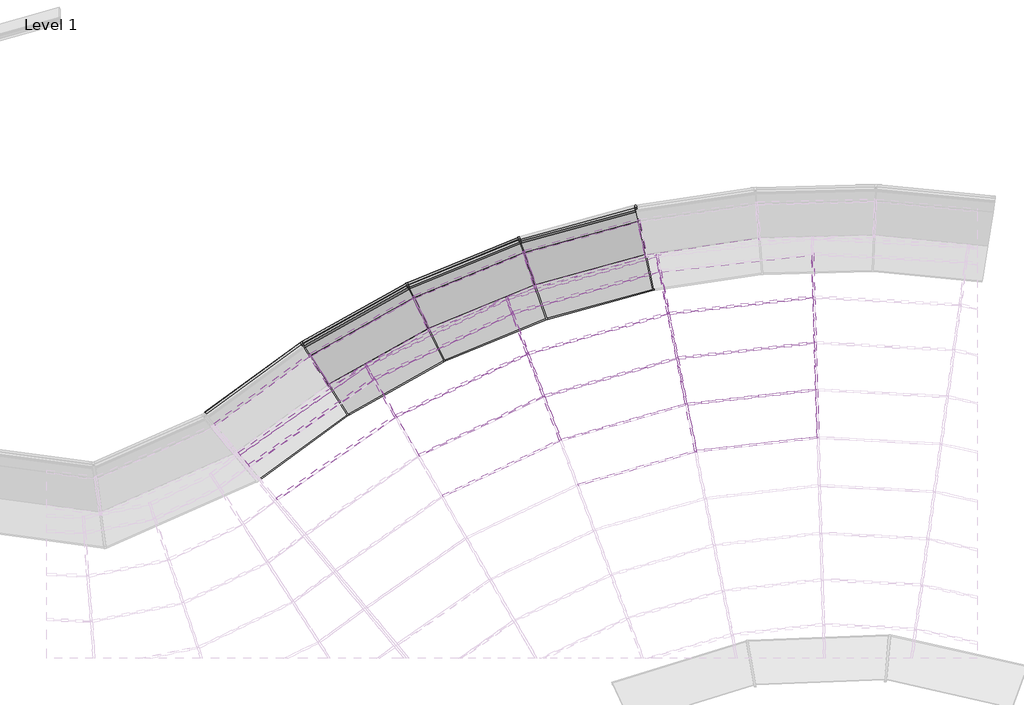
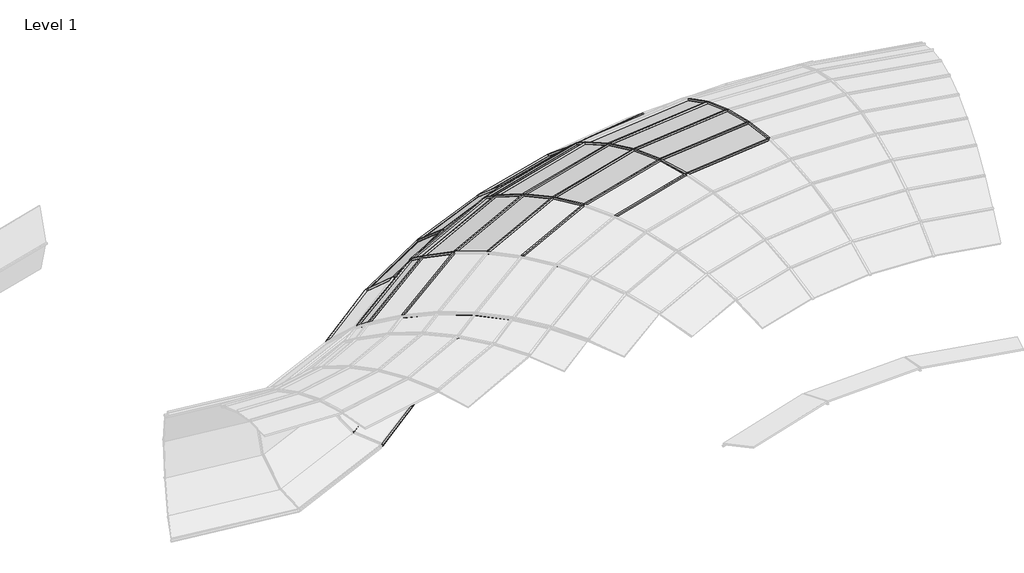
# One storey, part 9 of 23: 75 members, 27 plates.
"""IFC4 building model written with IfcOpenShell, lengths in millimetres."""

from ifc_helpers import new_model, si_unit, origin, place, context, project, spatial, transform, mapped, element, save
from components import member_c628317b, member_6de91377, member_1c681369, member_2317d74f, member_20199af6, member_3d776555, member_f0155a20, member_c9893ebc, member_775132e8, member_b171f0c8, member_cca2ed68, member_07455e61, member_515abc7c, member_13d284af, member_42775d8c, member_6834bcaf, member_93a8f3f7, member_a3fa0b53, member_9aefb50d, member_b335b832, member_0cd36c09, member_d0a40a1c, member_ff9adfd2, member_8c9da58c, member_391bee44, member_01ebdf2a, member_d6b8231b, system_panel_glazed_71638be0, system_panel_glazed_05378adf, system_panel_glazed_d39a2736, system_panel_glazed_45b67513, system_panel_glazed_273e2fa2, system_panel_glazed_45b4e97c, system_panel_glazed_9a1bcf3f, system_panel_glazed_a2a57e74, system_panel_glazed_56180ac8, system_panel_glazed_7dd4ad5a, system_panel_glazed_672f498d

model = new_model("IFC4")

# Units and contexts
model_context = context("Model", 3, world=origin())
ifc_project = project(units=[si_unit("LENGTHUNIT", "METRE", prefix="MILLI")], contexts=[model_context])

# Site, building, storey
site = spatial("IfcSite", under=ifc_project)
building = spatial("IfcBuilding", under=site)
storey = spatial("IfcBuildingStorey", under=building, Name="Level 1", Elevation=0.0)

# Members
placement = place(None, origin())
member_shape = member_c628317b(model_context)
element("IfcMember", 1, ObjectType="Rectangular Mullion : 1\" Square", at=placement, inside=storey, context=model_context, shape_type="MappedRepresentation", body=[
    mapped(member_shape, transform((-1928.4449271, -3972.3514659, 2864.5209769), x_axis=(-0.274468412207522, 0.9609290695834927, -0.03581080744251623), y_axis=(-0.009835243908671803, 0.03443373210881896, 0.999358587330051), z_axis=(0.9615458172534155, 0.2746445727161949, 0.0))),
])
element("IfcMember", 2, ObjectType="Rectangular Mullion : 1\" Square", at=placement, inside=storey, context=model_context, shape_type="MappedRepresentation", body=[
    mapped(member_shape, transform((-384.0867255, -3795.8696083, 2864.5209769), x_axis=(-0.11212460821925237, 0.993048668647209, -0.03581080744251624), y_axis=(-0.004017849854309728, 0.035584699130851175, 0.9993585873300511), z_axis=(0.9936860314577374, 0.1121965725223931, 0.0))),
])
member_2_shape = member_6de91377(model_context)
element("IfcMember", 3, ObjectType="Rectangular Mullion : 1\" Square", at=placement, inside=storey, context=model_context, shape_type="MappedRepresentation", body=[
    mapped(member_2_shape, transform((-3636.8972407, -3833.6088572, 2806.2019711), x_axis=(-0.42442622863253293, 0.8922429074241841, -0.154158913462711), y_axis=(-0.06622068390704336, 0.13921132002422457, 0.9880460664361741), z_axis=(0.9030377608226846, 0.42956117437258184, 0.0))),
])
element("IfcMember", 4, ObjectType="Rectangular Mullion : 1\" Square", at=placement, inside=storey, context=model_context, shape_type="MappedRepresentation", body=[
    mapped(member_2_shape, transform((-2046.2176927, -3377.0862904, 2806.2019711), x_axis=(-0.2713614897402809, 0.9500515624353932, -0.1541589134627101), y_axis=(-0.042338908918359, 0.14823085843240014, 0.9880460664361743), z_axis=(0.9615458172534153, 0.27464457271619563, 0.0))),
])
element("IfcMember", 5, ObjectType="Rectangular Mullion : 1\" Square", at=placement, inside=storey, context=model_context, shape_type="MappedRepresentation", body=[
    mapped(member_2_shape, transform((-402.0090703, -3189.3303737, 2806.2019711), x_axis=(-0.11085538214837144, 0.9818075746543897, -0.1541589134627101), y_axis=(-0.01729610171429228, 0.1531855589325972, 0.9880460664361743), z_axis=(0.9936860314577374, 0.11219657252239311, 0.0))),
])
member_3_shape = member_1c681369(model_context)
element("IfcMember", 6, ObjectType="Rectangular Mullion : 1\" Square", at=placement, inside=storey, context=model_context, shape_type="MappedRepresentation", body=[
    mapped(member_3_shape, transform((-3847.3125324, -3276.4749527, 2676.0506073), x_axis=(-0.4135643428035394, 0.8694086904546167, -0.2703572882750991), y_axis=(-0.11613499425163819, 0.24414284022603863, 0.9627600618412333), z_axis=(0.9030377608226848, 0.4295611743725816, 0.0))),
])
element("IfcMember", 7, ObjectType="Rectangular Mullion : 1\" Square", at=placement, inside=storey, context=model_context, shape_type="MappedRepresentation", body=[
    mapped(member_3_shape, transform((-2161.8050658, -2792.866861, 2676.0506073), x_axis=(-0.2644168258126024, 0.9257379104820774, -0.2703572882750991), y_axis=(-0.07425216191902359, 0.25996091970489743, 0.9627600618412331), z_axis=(0.9615458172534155, 0.27464457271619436, 0.0))),
])
element("IfcMember", 8, ObjectType="Rectangular Mullion : 1\" Square", at=placement, inside=storey, context=model_context, shape_type="MappedRepresentation", body=[
    mapped(member_3_shape, transform((-419.5988478, -2594.0460868, 2676.0506073), x_axis=(-0.10801837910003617, 0.9566812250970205, -0.27035728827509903), y_axis=(-0.030333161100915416, 0.2686502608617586, 0.9627600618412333), z_axis=(0.993686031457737, 0.11219657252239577, 0.0))),
])
member_4_shape = member_2317d74f(model_context)
element("IfcMember", 9, ObjectType="Rectangular Mullion : 1\" Square", at=placement, inside=storey, context=model_context, shape_type="MappedRepresentation", body=[
    mapped(member_4_shape, transform((-5719.4513163, -3533.8942053, 2475.91846), x_axis=(-0.5290813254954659, 0.7573326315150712, -0.3827796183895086), y_axis=(-0.21921719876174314, 0.31378982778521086, 0.9238396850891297), z_axis=(0.8197662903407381, 0.5726982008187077, 0.0))),
])
member_5_shape = member_20199af6(model_context)
element("IfcMember", 10, ObjectType="Rectangular Mullion : 1\" Square", at=placement, inside=storey, context=model_context, shape_type="MappedRepresentation", body=[
    mapped(member_5_shape, transform((-4050.7561003, -2737.8006557, 2475.91846), x_axis=(-0.3968456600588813, 0.834262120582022, -0.3827796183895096), y_axis=(-0.16442726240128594, 0.34566444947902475, 0.9238396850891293), z_axis=(0.9030377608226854, 0.4295611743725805, 0.0))),
])
element("IfcMember", 11, ObjectType="Rectangular Mullion : 1\" Square", at=placement, inside=storey, context=model_context, shape_type="MappedRepresentation", body=[
    mapped(member_5_shape, transform((-2273.5626638, -2228.0044681, 2475.91846), x_axis=(-0.253727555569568, 0.8883141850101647, -0.38277961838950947), y_axis=(-0.10512834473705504, 0.3680601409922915, 0.9238396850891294), z_axis=(0.9615458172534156, 0.274644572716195, 0.0))),
])
element("IfcMember", 12, ObjectType="Rectangular Mullion : 1\" Square", at=placement, inside=storey, context=model_context, shape_type="MappedRepresentation", body=[
    mapped(member_5_shape, transform((-436.6058204, -2018.4854501, 2475.91846), x_axis=(-0.10365164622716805, 0.9180065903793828, -0.3827796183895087), y_axis=(-0.04294656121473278, 0.38036275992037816, 0.9238396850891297), z_axis=(0.9936860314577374, 0.1121965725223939, 0.0))),
])
member_6_shape = member_3d776555(model_context)
element("IfcMember", 13, ObjectType="Rectangular Mullion : 1\" Square", at=placement, inside=storey, context=model_context, shape_type="MappedRepresentation", body=[
    mapped(member_6_shape, transform((-5994.9602237, -3060.3163335, 2208.6526723), x_axis=(-0.49928391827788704, 0.7146803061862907, -0.4898444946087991), y_axis=(-0.28053306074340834, 0.401558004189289, 0.871809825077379), z_axis=(0.819766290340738, 0.5726982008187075, 0.0))),
])
member_7_shape = member_f0155a20(model_context)
element("IfcMember", 14, ObjectType="Rectangular Mullion : 1\" Square", at=placement, inside=storey, context=model_context, shape_type="MappedRepresentation", body=[
    mapped(member_7_shape, transform((-4244.3336919, -2225.249317, 2208.6526723), x_axis=(-0.3744956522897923, 0.7872771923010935, -0.4898444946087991), y_axis=(-0.21041817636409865, 0.44234807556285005, 0.871809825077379), z_axis=(0.9030377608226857, 0.42956117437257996, 0.0))),
])
element("IfcMember", 15, ObjectType="Rectangular Mullion : 1\" Square", at=placement, inside=storey, context=model_context, shape_type="MappedRepresentation", body=[
    mapped(member_7_shape, transform((-2379.9005878, -1690.5350228, 2208.6526723), x_axis=(-0.23943783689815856, 0.8382850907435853, -0.4898444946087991), y_axis=(-0.13453313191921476, 0.4710079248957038, 0.871809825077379), z_axis=(0.9615458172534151, 0.2746445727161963, 0.0))),
])
member_8_shape = member_c9893ebc(model_context)
element("IfcMember", 16, ObjectType="Rectangular Mullion : 1\" Square", at=placement, inside=storey, context=model_context, shape_type="MappedRepresentation", body=[
    mapped(member_8_shape, transform((-6098.873932, -2881.6969442, 2085.6089632), x_axis=(-0.4916301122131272, 0.7037245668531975, -0.512905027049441), y_axis=(-0.29373978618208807, 0.42046225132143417, 0.8584453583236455), z_axis=(0.8197662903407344, 0.5726982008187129, 0.0))),
])
member_9_shape = member_775132e8(model_context)
element("IfcMember", 17, ObjectType="Rectangular Mullion : 1\" Square", at=placement, inside=storey, context=model_context, shape_type="MappedRepresentation", body=[
    mapped(member_9_shape, transform((-4317.3453617, -2031.9303033, 2085.6089632), x_axis=(-0.36875479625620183, 0.7752085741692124, -0.5129050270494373), y_axis=(-0.22032408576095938, 0.4631726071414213, 0.8584453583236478), z_axis=(0.9030377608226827, 0.42956117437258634, 0.0))),
])
element("IfcMember", 18, ObjectType="Rectangular Mullion : 1\" Square", at=placement, inside=storey, context=model_context, shape_type="MappedRepresentation", body=[
    mapped(member_9_shape, transform((-2420.0080679, -1487.8176455, 2085.6089632), x_axis=(-0.2357673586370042, 0.8254345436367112, -0.5129050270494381), y_axis=(-0.1408665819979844, 0.4931816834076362, 0.8584453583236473), z_axis=(0.9615458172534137, 0.27464457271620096, 0.0))),
])
member_10_shape = member_b171f0c8(model_context)
element("IfcMember", 19, ObjectType="Rectangular Mullion : 1\" Square", at=placement, inside=storey, context=model_context, shape_type="MappedRepresentation", body=[
    mapped(member_10_shape, transform((-5572.5621818, -1858.7917179, 1116.1918244), x_axis=(-0.012962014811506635, 0.023146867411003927, -0.9996480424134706), y_axis=(-0.488424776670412, 0.8722026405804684, 0.02652906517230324), z_axis=(0.8725097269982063, 0.48859674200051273, 0.0))),
])
element("IfcMember", 20, ObjectType="Rectangular Mullion : 1\" Square", at=placement, inside=storey, context=model_context, shape_type="MappedRepresentation", body=[
    mapped(member_10_shape, transform((-4160.6091325, -1278.3717529, 1116.1918244), x_axis=(-0.01006174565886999, 0.024546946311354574, -0.9996480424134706), y_axis=(-0.3791390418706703, 0.9249593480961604, 0.02652906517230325), z_axis=(0.9252850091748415, 0.3792725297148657, 0.0))),
])
member_11_shape = member_cca2ed68(model_context)
element("IfcMember", 21, ObjectType="Rectangular Mullion : 1\" Square", at=placement, inside=storey, context=model_context, shape_type="MappedRepresentation", body=[
    mapped(member_11_shape, transform((-6819.8034783, -2736.6901017, 526.7119632), x_axis=(0.3051754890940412, -0.4168449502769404, -0.8562173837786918), y_axis=(-0.5057851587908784, 0.6908614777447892, -0.5166157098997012), z_axis=(0.8068762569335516, 0.5907204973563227, 0.0))),
])
member_12_shape = member_07455e61(model_context)
element("IfcMember", 22, ObjectType="Rectangular Mullion : 1\" Square", at=placement, inside=storey, context=model_context, shape_type="MappedRepresentation", body=[
    mapped(member_12_shape, transform((-5505.0370626, -1998.6702778, 526.7119632), x_axis=(0.25241675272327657, -0.4507522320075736, -0.8562173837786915), y_axis=(-0.4183450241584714, 0.7470579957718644, -0.5166157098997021), z_axis=(0.8725097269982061, 0.48859674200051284, 0.0))),
])
element("IfcMember", 23, ObjectType="Rectangular Mullion : 1\" Square", at=placement, inside=storey, context=model_context, shape_type="MappedRepresentation", body=[
    mapped(member_12_shape, transform((-4110.5309752, -1425.4017886, 526.7119632), x_axis=(0.1959381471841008, -0.4780167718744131, -0.8562173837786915), y_axis=(-0.3247397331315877, 0.7922451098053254, -0.516615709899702), z_axis=(0.9252850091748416, 0.37927252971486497, 0.0))),
])
element("IfcMember", 24, ObjectType="Rectangular Mullion : 1\" Square", at=placement, inside=storey, context=model_context, shape_type="MappedRepresentation", body=[
    mapped(member_12_shape, transform((-2656.8360716, -1025.3328998, 526.7119632), x_axis=(0.13657199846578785, -0.49823677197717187, -0.8562173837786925), y_axis=(-0.22634874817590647, 0.8257568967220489, -0.5166157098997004), z_axis=(0.9644243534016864, 0.2643589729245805, 0.0))),
])
member_13_shape = member_515abc7c(model_context)
element("IfcMember", 25, ObjectType="Rectangular Mullion : 1\" Square", at=placement, inside=storey, context=model_context, shape_type="MappedRepresentation", body=[
    mapped(member_13_shape, transform((-4100.5457525, -1454.7185153, 1696.6281859), x_axis=(-0.212867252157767, 0.5193175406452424, -0.827645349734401), y_axis=(-0.31390314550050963, 0.7658078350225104, 0.5612514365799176), z_axis=(0.9252850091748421, 0.37927252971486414, 0.0))),
])
element("IfcMember", 26, ObjectType="Rectangular Mullion : 1\" Square", at=placement, inside=storey, context=model_context, shape_type="MappedRepresentation", body=[
    mapped(member_13_shape, transform((-2650.4767994, -1055.643538, 1696.6281859), x_axis=(-0.14837185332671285, 0.5412845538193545, -0.8276453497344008), y_axis=(-0.2187954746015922, 0.798201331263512, 0.5612514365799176), z_axis=(0.9644243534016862, 0.26435897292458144, 0.0))),
])
element("IfcMember", 27, ObjectType="Rectangular Mullion : 1\" Square", at=placement, inside=storey, context=model_context, shape_type="MappedRepresentation", body=[
    mapped(member_13_shape, transform((-5491.5730418, -2026.5610519, 1696.6281859), x_axis=(-0.2742256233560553, 0.48969733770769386, -0.8276453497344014), y_axis=(-0.40438482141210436, 0.722128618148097, 0.5612514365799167), z_axis=(0.8725097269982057, 0.48859674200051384, 0.0))),
])
member_14_shape = member_13d284af(model_context)
element("IfcMember", 28, ObjectType="Rectangular Mullion : 1\" Square", at=placement, inside=storey, context=model_context, shape_type="MappedRepresentation", body=[
    mapped(member_14_shape, transform((-6903.7804408, -2606.0244099, 1116.1918244), x_axis=(-0.01567126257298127, 0.021405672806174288, -0.9996480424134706), y_axis=(-0.5905125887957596, 0.8065922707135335, 0.026529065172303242), z_axis=(0.8068762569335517, 0.5907204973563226, 0.0))),
])
member_15_shape = member_42775d8c(model_context)
element("IfcMember", 29, ObjectType="Rectangular Mullion : 1\" Square", at=placement, inside=storey, context=model_context, shape_type="MappedRepresentation", body=[
    mapped(member_15_shape, transform((-6577.5193926, -3113.6770365, 113.4427618), x_axis=(0.5294456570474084, -0.7231797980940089, -0.44350679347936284), y_axis=(-0.2619885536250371, 0.3578551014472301, -0.8962710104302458), z_axis=(0.8068762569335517, 0.5907204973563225, 0.0))),
])
member_16_shape = member_6834bcaf(model_context)
element("IfcMember", 30, ObjectType="Rectangular Mullion : 1\" Square", at=placement, inside=storey, context=model_context, shape_type="MappedRepresentation", body=[
    mapped(member_16_shape, transform((-5310.2186112, -2402.2374944, 113.4427618), x_axis=(0.4379150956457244, -0.7820051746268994, -0.44350679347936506), y_axis=(-0.21669597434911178, 0.38696399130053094, -0.8962710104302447), z_axis=(0.8725097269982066, 0.48859674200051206, 0.0))),
])
element("IfcMember", 31, ObjectType="Rectangular Mullion : 1\" Square", at=placement, inside=storey, context=model_context, shape_type="MappedRepresentation", body=[
    mapped(member_16_shape, transform((-3966.0492005, -1849.6019113, 113.4427618), x_axis=(0.33993097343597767, -0.8293061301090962, -0.4435067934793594), y_axis=(-0.1682099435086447, 0.4103701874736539, -0.8962710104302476), z_axis=(0.9252850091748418, 0.3792725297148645, 0.0))),
])
element("IfcMember", 32, ObjectType="Rectangular Mullion : 1\" Square", at=placement, inside=storey, context=model_context, shape_type="MappedRepresentation", body=[
    mapped(member_16_shape, transform((-2564.8202035, -1463.9144854, 113.4427618), x_axis=(0.23693728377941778, -0.8643855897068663, -0.443506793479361), y_axis=(-0.1172450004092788, 0.4277287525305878, -0.8962710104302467), z_axis=(0.9644243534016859, 0.2643589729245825, 0.0))),
])
member_17_shape = member_93a8f3f7(model_context)
element("IfcMember", 33, ObjectType="Rectangular Mullion : 1\" Square", at=placement, inside=storey, context=model_context, shape_type="MappedRepresentation", body=[
    mapped(member_17_shape, transform((-6316.0692502, -3520.4857935, 0.0), x_axis=(0.5750522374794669, -0.7854746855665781, -0.22878907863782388), y_axis=(-0.13515039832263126, 0.18460447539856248, -0.9734760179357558), z_axis=(0.8068762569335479, 0.5907204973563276, 0.0))),
])
member_18_shape = member_a3fa0b53(model_context)
element("IfcMember", 34, ObjectType="Rectangular Mullion : 1\" Square", at=placement, inside=storey, context=model_context, shape_type="MappedRepresentation", body=[
    mapped(member_18_shape, transform((-5099.9889064, -2837.7291854, 0.0), x_axis=(0.47563721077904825, -0.8493672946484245, -0.22878907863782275), y_axis=(-0.11178559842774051, 0.19962069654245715, -0.973476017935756), z_axis=(0.8725097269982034, 0.4885967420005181, 0.0))),
])
element("IfcMember", 35, ObjectType="Rectangular Mullion : 1\" Square", at=placement, inside=storey, context=model_context, shape_type="MappedRepresentation", body=[
    mapped(member_18_shape, transform((-3810.1380913, -2307.3586892, 0.0), x_axis=(0.3692127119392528, -0.9007427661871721, -0.22878907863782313), y_axis=(-0.08677341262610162, 0.21169510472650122, -0.9734760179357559), z_axis=(0.9252850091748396, 0.3792725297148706, 0.0))),
])
element("IfcMember", 36, ObjectType="Rectangular Mullion : 1\" Square", at=placement, inside=storey, context=model_context, shape_type="MappedRepresentation", body=[
    mapped(member_18_shape, transform((-2465.5253541, -1937.1903823, 0.0), x_axis=(0.2573471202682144, -0.9388439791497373, -0.22878907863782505), y_axis=(-0.060482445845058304, 0.22064975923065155, -0.9734760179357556), z_axis=(0.9644243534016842, 0.26435897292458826, 0.0))),
])
member_19_shape = member_9aefb50d(model_context)
element("IfcMember", 37, ObjectType="Rectangular Mullion : 1\" Square", at=placement, inside=storey, context=model_context, shape_type="MappedRepresentation", body=[
    mapped(member_19_shape, transform((-6803.0590789, -2762.7438964, 1696.6281859), x_axis=(-0.33154272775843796, 0.45286045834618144, -0.827645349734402), y_axis=(-0.4889070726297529, 0.667807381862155, 0.5612514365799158), z_axis=(0.8068762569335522, 0.5907204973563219, 0.0))),
])
member_20_shape = member_b335b832(model_context)
element("IfcMember", 38, ObjectType="Rectangular Mullion : 1\" Square", at=placement, inside=storey, context=model_context, shape_type="MappedRepresentation", body=[
    mapped(member_20_shape, transform((-6527.9646064, -3143.889445, 2085.6089632), x_axis=(0.37591719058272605, -0.6712926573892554, 0.6387898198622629), y_axis=(-0.3121106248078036, 0.5573503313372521, 0.7693812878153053), z_axis=(-0.8725097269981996, -0.48859674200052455, 0.0))),
])
element("IfcMember", 39, ObjectType="Rectangular Mullion : 1\" Square", at=placement, inside=storey, context=model_context, shape_type="MappedRepresentation", body=[
    mapped(member_20_shape, transform((-5264.689876, -2438.2319484, 2085.6089632), x_axis=(0.291805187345, -0.7118969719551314, 0.6387898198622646), y_axis=(-0.2422754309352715, 0.5910626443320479, 0.7693812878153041), z_axis=(-0.9252850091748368, -0.3792725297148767, 0.0))),
])
element("IfcMember", 40, ObjectType="Rectangular Mullion : 1\" Square", at=placement, inside=storey, context=model_context, shape_type="MappedRepresentation", body=[
    mapped(member_20_shape, transform((-3925.2174738, -1890.8479601, 2085.6089632), x_axis=(0.20339284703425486, -0.7420100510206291, 0.638789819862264), y_axis=(-0.16886982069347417, 0.6160644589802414, 0.7693812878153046), z_axis=(-0.9644243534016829, -0.2643589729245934, 0.0))),
])
element("IfcMember", 41, ObjectType="Rectangular Mullion : 1\" Square", at=placement, inside=storey, context=model_context, shape_type="MappedRepresentation", body=[
    mapped(member_20_shape, transform((-2529.287223, -1509.8042855, 2085.6089632), x_axis=(0.11198310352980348, -0.7611881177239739, 0.6387898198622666), y_axis=(-0.09297557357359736, 0.6319873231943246, 0.7693812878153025), z_axis=(-0.9893509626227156, -0.14554955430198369, 0.0))),
])
member_21_shape = member_0cd36c09(model_context)
element("IfcMember", 42, ObjectType="Rectangular Mullion : 1\" Square", at=placement, inside=storey, context=model_context, shape_type="MappedRepresentation", body=[
    mapped(member_21_shape, transform((-3625.4286612, -3828.1534303, 2806.2019711), x_axis=(0.9355040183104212, 0.35331605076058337, 0.0), y_axis=(-0.07543399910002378, 0.19973281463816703, 0.9769424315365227), z_axis=(0.34516944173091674, -0.913933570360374, 0.2135028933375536))),
])
element("IfcMember", 43, ObjectType="Rectangular Mullion : 1\" Square", at=placement, inside=storey, context=model_context, shape_type="MappedRepresentation", body=[
    mapped(member_21_shape, transform((-3835.8439528, -3271.0195258, 2676.0506073), x_axis=(0.9355040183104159, 0.35331605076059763, 0.0), y_axis=(-0.11599393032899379, 0.30712668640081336, 0.944573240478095), z_axis=(0.3337328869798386, -0.883652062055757, 0.3283007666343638))),
])
element("IfcMember", 44, ObjectType="Rectangular Mullion : 1\" Square", at=placement, inside=storey, context=model_context, shape_type="MappedRepresentation", body=[
    mapped(member_21_shape, transform((-1916.2332952, -3968.8634799, 2864.5209769), x_axis=(0.9809843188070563, 0.19408700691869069, 0.0), y_axis=(-0.01856784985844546, 0.09384847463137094, 0.9954133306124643), z_axis=(0.19319679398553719, -0.9764848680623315, 0.09566766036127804))),
])
element("IfcMember", 45, ObjectType="Rectangular Mullion : 1\" Square", at=placement, inside=storey, context=model_context, shape_type="MappedRepresentation", body=[
    mapped(member_21_shape, transform((-2034.0060608, -3373.5983043, 2806.2019711), x_axis=(0.9809843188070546, 0.19408700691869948, 0.0), y_axis=(-0.041438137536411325, 0.2094429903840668, 0.9769424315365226), z_axis=(0.1896118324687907, -0.9583652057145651, 0.21350289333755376))),
])
element("IfcMember", 46, ObjectType="Rectangular Mullion : 1\" Square", at=placement, inside=storey, context=model_context, shape_type="MappedRepresentation", body=[
    mapped(member_21_shape, transform((-2149.5934339, -2789.3788749, 2676.0506073), x_axis=(0.9809843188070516, 0.19408700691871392, 0.0), y_axis=(-0.06371891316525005, 0.3220579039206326, 0.9445732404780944), z_axis=(0.18332939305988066, -0.9266115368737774, 0.32830076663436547))),
])
element("IfcMember", 47, ObjectType="Rectangular Mullion : 1\" Square", at=placement, inside=storey, context=model_context, shape_type="MappedRepresentation", body=[
    mapped(member_21_shape, transform((-371.466913, -3794.4447118, 2864.5209769), x_axis=(0.9995637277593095, 0.029535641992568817, 0.0), y_axis=(-0.002825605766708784, 0.09562592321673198, 0.9954133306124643), z_axis=(0.029400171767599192, -0.9949790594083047, 0.09566766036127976))),
])
element("IfcMember", 48, ObjectType="Rectangular Mullion : 1\" Square", at=placement, inside=storey, context=model_context, shape_type="MappedRepresentation", body=[
    mapped(member_21_shape, transform((-389.3892577, -3187.9054772, 2806.2019711), x_axis=(0.9995637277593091, 0.02953564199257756, 0.0), y_axis=(-0.0063059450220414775, 0.213409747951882, 0.9769424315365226), z_axis=(0.02885462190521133, -0.9765162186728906, 0.2135028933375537))),
])
element("IfcMember", 49, ObjectType="Rectangular Mullion : 1\" Square", at=placement, inside=storey, context=model_context, shape_type="MappedRepresentation", body=[
    mapped(member_21_shape, transform((-406.9790352, -2592.6211903, 2676.0506073), x_axis=(0.9995637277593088, 0.02953564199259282, 0.0), y_axis=(-0.0096965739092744, 0.3281575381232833, 0.9445732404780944), z_axis=(0.02789857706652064, -0.9441611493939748, 0.3283007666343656))),
])
member_22_shape = member_d0a40a1c(model_context)
element("IfcMember", 50, ObjectType="Rectangular Mullion : 1\" Square", at=placement, inside=storey, context=model_context, shape_type="MappedRepresentation", body=[
    mapped(member_22_shape, transform((-5709.0402844, -3526.6209381, 2475.91846), x_axis=(0.8643700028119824, 0.5028563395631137, 0.0), y_axis=(-0.22046636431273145, 0.378964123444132, 0.898766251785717), z_axis=(0.4519503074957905, -0.7768665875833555, 0.4384281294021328))),
])
element("IfcMember", 51, ObjectType="Rectangular Mullion : 1\" Square", at=placement, inside=storey, context=model_context, shape_type="MappedRepresentation", body=[
    mapped(member_22_shape, transform((-4039.2875207, -2732.3452287, 2475.91846), x_axis=(0.9355040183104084, 0.35331605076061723, 0.0), y_axis=(-0.15490369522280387, 0.4101512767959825, 0.8987662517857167), z_axis=(0.3175485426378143, -0.8407994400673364, 0.43842812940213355))),
])
element("IfcMember", 52, ObjectType="Rectangular Mullion : 1\" Square", at=placement, inside=storey, context=model_context, shape_type="MappedRepresentation", body=[
    mapped(member_22_shape, transform((-2261.3510319, -2224.516482, 2475.91846), x_axis=(0.9809843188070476, 0.19408700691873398, 0.0), y_axis=(-0.08509320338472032, 0.4300911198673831, 0.8987662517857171), z_axis=(0.17443885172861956, -0.881675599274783, 0.43842812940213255))),
])
element("IfcMember", 53, ObjectType="Rectangular Mullion : 1\" Square", at=placement, inside=storey, context=model_context, shape_type="MappedRepresentation", body=[
    mapped(member_22_shape, transform((-423.9860078, -2017.0605536, 2475.91846), x_axis=(0.9995637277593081, 0.029535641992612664, 0.0), y_axis=(-0.012949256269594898, 0.4382368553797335, 0.898766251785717), z_axis=(0.026545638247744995, -0.8983741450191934, 0.43842812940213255))),
])
member_23_shape = member_ff9adfd2(model_context)
element("IfcMember", 54, ObjectType="Rectangular Mullion : 1\" Square", at=placement, inside=storey, context=model_context, shape_type="MappedRepresentation", body=[
    mapped(member_23_shape, transform((-5984.5491919, -3053.0430663, 2208.6526723), x_axis=(0.8643700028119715, 0.5028563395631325, 0.0), y_axis=(-0.25726402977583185, 0.44221637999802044, 0.8592205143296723), z_axis=(0.43206448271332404, -0.7426844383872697, 0.5116054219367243))),
])
element("IfcMember", 55, ObjectType="Rectangular Mullion : 1\" Square", at=placement, inside=storey, context=model_context, shape_type="MappedRepresentation", body=[
    mapped(member_23_shape, transform((-4232.8651123, -2219.7938901, 2208.6526723), x_axis=(0.9355040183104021, 0.353316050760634, 0.0), y_axis=(-0.18075840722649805, 0.4786089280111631, 0.8592205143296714), z_axis=(0.30357639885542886, -0.8038042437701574, 0.5116054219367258))),
])
element("IfcMember", 56, ObjectType="Rectangular Mullion : 1\" Square", at=placement, inside=storey, context=model_context, shape_type="MappedRepresentation", body=[
    mapped(member_23_shape, transform((-2367.6889559, -1687.0470367, 2208.6526723), x_axis=(0.9809843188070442, 0.19408700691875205, 0.0), y_axis=(-0.09929596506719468, 0.5018768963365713, 0.8592205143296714), z_axis=(0.1667635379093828, -0.8428818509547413, 0.5116054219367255))),
])
member_24_shape = member_8c9da58c(model_context)
element("IfcMember", 57, ObjectType="Rectangular Mullion : 1\" Square", at=placement, inside=storey, context=model_context, shape_type="MappedRepresentation", body=[
    mapped(member_24_shape, transform((-4148.8580129, -1273.5549918, 1116.1918244), x_axis=(0.9466000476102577, 0.3224102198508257, 0.0), y_axis=(-0.31176891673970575, 0.9153570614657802, -0.2547971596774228), z_axis=(-0.08214920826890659, 0.24119100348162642, 0.9669945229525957))),
])
element("IfcMember", 58, ObjectType="Rectangular Mullion : 1\" Square", at=placement, inside=storey, context=model_context, shape_type="MappedRepresentation", body=[
    mapped(member_24_shape, transform((-2638.2286101, -1052.286179, 1696.6281859), x_axis=(0.9786921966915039, 0.2053328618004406, 0.0), y_axis=(-0.1955096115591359, 0.9318709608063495, 0.30560187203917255), z_axis=(0.06275010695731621, -0.2990901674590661, 0.9521593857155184))),
])
element("IfcMember", 59, ObjectType="Rectangular Mullion : 1\" Square", at=placement, inside=storey, context=model_context, shape_type="MappedRepresentation", body=[
    mapped(member_24_shape, transform((-6792.8117504, -2755.2417461, 1696.6281859), x_axis=(0.8412441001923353, 0.5406554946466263, 0.0), y_axis=(-0.5147902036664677, 0.8009984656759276, 0.30560187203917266), z_axis=(0.16522533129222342, -0.2570857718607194, 0.9521593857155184))),
])
element("IfcMember", 60, ObjectType="Rectangular Mullion : 1\" Square", at=placement, inside=storey, context=model_context, shape_type="MappedRepresentation", body=[
    mapped(member_24_shape, transform((-6893.5331124, -2598.5222596, 1116.1918244), x_axis=(0.8412441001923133, 0.5406554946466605, 0.0), y_axis=(-0.5228109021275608, 0.8134784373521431, -0.2547971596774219), z_axis=(-0.13775748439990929, 0.21434660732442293, 0.9669945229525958))),
])
element("IfcMember", 61, ObjectType="Rectangular Mullion : 1\" Square", at=placement, inside=storey, context=model_context, shape_type="MappedRepresentation", body=[
    mapped(member_24_shape, transform((-5480.4921682, -2020.3558732, 1696.6281859), x_axis=(0.9005578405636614, 0.4347362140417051, 0.0), y_axis=(-0.4139381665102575, 0.8574746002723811, 0.30560187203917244), z_axis=(0.13285620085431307, -0.2752121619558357, 0.9521593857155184))),
])
element("IfcMember", 62, ObjectType="Rectangular Mullion : 1\" Square", at=placement, inside=storey, context=model_context, shape_type="MappedRepresentation", body=[
    mapped(member_24_shape, transform((-5561.4813083, -1852.5865393, 1116.1918244), x_axis=(0.9005578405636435, 0.434736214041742, 0.0), y_axis=(-0.4203875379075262, 0.8708344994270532, -0.2547971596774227), z_axis=(-0.11076955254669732, 0.229459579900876, 0.9669945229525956))),
])
element("IfcMember", 63, ObjectType="Rectangular Mullion : 1\" Square", at=placement, inside=storey, context=model_context, shape_type="MappedRepresentation", body=[
    mapped(member_24_shape, transform((-4088.7946329, -1449.9017541, 1696.6281859), x_axis=(0.946600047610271, 0.322410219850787, 0.0), y_axis=(-0.3069859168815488, 0.9013141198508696, 0.3056018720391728), z_axis=(0.09852916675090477, -0.2892827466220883, 0.9521593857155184))),
])
member_25_shape = member_391bee44(model_context)
element("IfcMember", 64, ObjectType="Rectangular Mullion : 1\" Square", at=placement, inside=storey, context=model_context, shape_type="MappedRepresentation", body=[
    mapped(member_25_shape, transform((-4098.7798556, -1420.5850275, 526.7119632), x_axis=(0.9466000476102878, 0.32241021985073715, 0.0), y_axis=(-0.21857318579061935, 0.6417333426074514, -0.7351218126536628), z_axis=(-0.2370107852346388, 0.6958663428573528, 0.6779350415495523))),
])
element("IfcMember", 65, ObjectType="Rectangular Mullion : 1\" Square", at=placement, inside=storey, context=model_context, shape_type="MappedRepresentation", body=[
    mapped(member_25_shape, transform((-2644.5878824, -1021.9755408, 526.7119632), x_axis=(0.9786921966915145, 0.20533286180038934, 0.0), y_axis=(-0.1392023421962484, 0.6634897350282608, -0.7351218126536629), z_axis=(-0.1509446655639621, 0.7194579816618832, 0.6779350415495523))),
])
element("IfcMember", 66, ObjectType="Rectangular Mullion : 1\" Square", at=placement, inside=storey, context=model_context, shape_type="MappedRepresentation", body=[
    mapped(member_25_shape, transform((-6809.5561499, -2729.1879514, 526.7119632), x_axis=(0.8412441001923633, 0.5406554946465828, 0.0), y_axis=(-0.36652930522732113, 0.5703088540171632, -0.735121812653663), z_axis=(-0.3974476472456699, 0.618416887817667, 0.6779350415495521))),
])
element("IfcMember", 67, ObjectType="Rectangular Mullion : 1\" Square", at=placement, inside=storey, context=model_context, shape_type="MappedRepresentation", body=[
    mapped(member_25_shape, transform((-5493.956189, -1992.4650992, 526.7119632), x_axis=(0.900557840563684, 0.43473621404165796, 0.0), y_axis=(-0.29472291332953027, 0.610519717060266, -0.7351218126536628), z_axis=(-0.31958407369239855, 0.6620197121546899, 0.6779350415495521))),
])
member_26_shape = member_01ebdf2a(model_context)
element("IfcMember", 68, ObjectType="Rectangular Mullion : 1\" Square", at=placement, inside=storey, context=model_context, shape_type="MappedRepresentation", body=[
    mapped(member_26_shape, transform((-3954.2980809, -1844.7851501, 113.4427618), x_axis=(0.9466000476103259, 0.3224102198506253, 0.0), y_axis=(-0.07363502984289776, 0.2161932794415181, -0.9735698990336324), z_axis=(-0.3138888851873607, 0.9215813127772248, 0.22838925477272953))),
])
element("IfcMember", 69, ObjectType="Rectangular Mullion : 1\" Square", at=placement, inside=storey, context=model_context, shape_type="MappedRepresentation", body=[
    mapped(member_26_shape, transform((-2552.5720142, -1460.5571264, 113.4427618), x_axis=(0.9786921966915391, 0.2053328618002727, 0.0), y_axis=(-0.046895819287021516, 0.22352278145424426, -0.9735698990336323), z_axis=(-0.19990589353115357, 0.9528252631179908, 0.2283892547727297))),
])
element("IfcMember", 70, ObjectType="Rectangular Mullion : 1\" Square", at=placement, inside=storey, context=model_context, shape_type="MappedRepresentation", body=[
    mapped(member_26_shape, transform((-6567.2720641, -3106.1748862, 113.4427618), x_axis=(0.8412441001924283, 0.5406554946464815, 0.0), y_axis=(-0.12347990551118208, 0.19213111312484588, -0.9735698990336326), z_axis=(-0.5263659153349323, 0.819009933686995, 0.2283892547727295))),
])
element("IfcMember", 71, ObjectType="Rectangular Mullion : 1\" Square", at=placement, inside=storey, context=model_context, shape_type="MappedRepresentation", body=[
    mapped(member_26_shape, transform((-5299.1377377, -2396.0323158, 113.4427618), x_axis=(0.9005578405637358, 0.43473621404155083, 0.0), y_axis=(-0.09928907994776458, 0.20567773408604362, -0.9735698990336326), z_axis=(-0.4232460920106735, 0.8767560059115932, 0.2283892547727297))),
])
member_27_shape = member_d6b8231b(model_context)
element("IfcMember", 72, ObjectType="Rectangular Mullion : 1\" Square", at=placement, inside=storey, context=model_context, shape_type="MappedRepresentation", body=[
    mapped(member_27_shape, transform((-6539.04548, -3150.0946237, 2085.6089632), x_axis=(0.8412441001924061, 0.540655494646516, 0.0), y_axis=(-0.3449878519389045, 0.5367909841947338, 0.7699602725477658), z_axis=(0.41628325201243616, -0.6477245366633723, 0.6380918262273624))),
])
element("IfcMember", 73, ObjectType="Rectangular Mullion : 1\" Square", at=placement, inside=storey, context=model_context, shape_type="MappedRepresentation", body=[
    mapped(member_27_shape, transform((-5276.4409956, -2443.0487096, 2085.6089632), x_axis=(0.9005578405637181, 0.43473621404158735, 0.0), y_axis=(-0.27740162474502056, 0.574638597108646, 0.7699602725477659), z_axis=(0.3347296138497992, -0.6933937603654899, 0.638091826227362))),
])
element("IfcMember", 74, ObjectType="Rectangular Mullion : 1\" Square", at=placement, inside=storey, context=model_context, shape_type="MappedRepresentation", body=[
    mapped(member_27_shape, transform((-3937.4656631, -1894.2053191, 2085.6089632), x_axis=(0.9466000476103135, 0.32241021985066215, 0.0), y_axis=(-0.2057273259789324, 0.6040177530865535, 0.7699602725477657), z_axis=(0.24824306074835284, -0.7288444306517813, 0.6380918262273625))),
])
element("IfcMember", 75, ObjectType="Rectangular Mullion : 1\" Square", at=placement, inside=storey, context=model_context, shape_type="MappedRepresentation", body=[
    mapped(member_27_shape, transform((-2541.8519802, -1511.6527648, 2085.6089632), x_axis=(0.978692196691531, 0.20533286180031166, 0.0), y_axis=(-0.1310212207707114, 0.6244954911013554, 0.7699602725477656), z_axis=(0.158098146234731, -0.753554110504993, 0.6380918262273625))),
])

# Plates
system_panel_glazed_shape = system_panel_glazed_71638be0(model_context)
element("IfcPlate", 76, ObjectType="System Panel : Glazed", at=placement, inside=storey, context=model_context, shape_type="MappedRepresentation", body=[
    mapped(system_panel_glazed_shape, transform((-1145.2684202, -3869.092563, 2863.3018499), x_axis=(0.9936860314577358, 0.11219657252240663, 0.0), y_axis=(0.010770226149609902, -0.09538814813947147, -0.9953818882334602), z_axis=(-0.11167843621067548, 0.9890970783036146, -0.09599425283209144))),
])
system_panel_glazed_2_shape = system_panel_glazed_05378adf(model_context)
element("IfcPlate", 77, ObjectType="System Panel : Glazed", at=placement, inside=storey, context=model_context, shape_type="MappedRepresentation", body=[
    mapped(system_panel_glazed_2_shape, transform((-2833.1243866, -3588.9476824, 2803.4815699), x_axis=(0.9615458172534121, 0.274644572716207, 0.0), y_axis=(0.05883019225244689, -0.2059677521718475, -0.97678876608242), z_axis=(-0.26826973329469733, 0.9392271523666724, -0.2142048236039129))),
])
element("IfcPlate", 78, ObjectType="System Panel : Glazed", at=placement, inside=storey, context=model_context, shape_type="MappedRepresentation", body=[
    mapped(system_panel_glazed_2_shape, transform((-1213.0894821, -3268.4249996, 2803.4815699), x_axis=(0.9936860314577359, 0.11219657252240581, 0.0), y_axis=(0.02403304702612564, -0.2128523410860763, -0.9767887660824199), z_axis=(-0.10959235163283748, 0.9706213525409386, -0.2142048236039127))),
])
system_panel_glazed_3_shape = system_panel_glazed_d39a2736(model_context)
element("IfcPlate", 79, ObjectType="System Panel : Glazed", at=placement, inside=storey, context=model_context, shape_type="MappedRepresentation", body=[
    mapped(system_panel_glazed_3_shape, transform((-4632.8179341, -3636.8485903, 2671.8683773), x_axis=(0.9030377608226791, 0.4295611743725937, 0.0), y_axis=(0.1414585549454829, -0.2973788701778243, -0.9442220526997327), z_axis=(-0.40560113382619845, 0.8526681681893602, -0.3293094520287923))),
])
element("IfcPlate", 80, ObjectType="System Panel : Glazed", at=placement, inside=storey, context=model_context, shape_type="MappedRepresentation", body=[
    mapped(system_panel_glazed_3_shape, transform((-2996.0121267, -3018.6687082, 2671.8683773), x_axis=(0.9615458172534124, 0.2746445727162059, 0.0), y_axis=(0.09044305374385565, -0.316646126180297, -0.944222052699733), z_axis=(-0.2593254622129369, 0.9079127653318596, -0.32930945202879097))),
])
element("IfcPlate", 81, ObjectType="System Panel : Glazed", at=placement, inside=storey, context=model_context, shape_type="MappedRepresentation", body=[
    mapped(system_panel_glazed_3_shape, transform((-1279.6316532, -2679.0841272, 2671.8683773), x_axis=(0.9936860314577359, 0.11219657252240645, 0.0), y_axis=(0.03694739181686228, -0.3272302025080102, -0.9442220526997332), z_axis=(-0.10593847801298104, 0.9382602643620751, -0.3293094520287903))),
])
system_panel_glazed_4_shape = system_panel_glazed_45b67513(model_context)
element("IfcPlate", 82, ObjectType="System Panel : Glazed", at=placement, inside=storey, context=model_context, shape_type="MappedRepresentation", body=[
    mapped(system_panel_glazed_4_shape, transform((-4879.0638065, -3119.1823428, 2470.3349411), x_axis=(0.9030377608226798, 0.4295611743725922, 0.0), y_axis=(0.18885535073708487, -0.3970179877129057, -0.8981705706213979), z_axis=(-0.3858192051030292, 0.811081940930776, -0.43964716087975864))),
])
element("IfcPlate", 83, ObjectType="System Panel : Glazed", at=placement, inside=storey, context=model_context, shape_type="MappedRepresentation", body=[
    mapped(system_panel_glazed_4_shape, transform((-3153.4520828, -2467.462727, 2470.3349411), x_axis=(0.9615458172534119, 0.2746445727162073, 0.0), y_axis=(0.12074670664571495, -0.42274088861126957, -0.898170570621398), z_axis=(-0.24667767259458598, 0.8636321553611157, -0.4396471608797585))),
])
element("IfcPlate", 84, ObjectType="System Panel : Glazed", at=placement, inside=storey, context=model_context, shape_type="MappedRepresentation", body=[
    mapped(system_panel_glazed_4_shape, transform((-1343.9483199, -2109.4537735, 2470.3349411), x_axis=(0.9936860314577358, 0.11219657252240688, 0.0), y_axis=(0.049326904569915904, -0.43687124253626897, -0.8981705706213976), z_axis=(-0.10077165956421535, 0.8924995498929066, -0.4396471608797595))),
])
system_panel_glazed_5_shape = system_panel_glazed_273e2fa2(model_context)
element("IfcPlate", 85, ObjectType="System Panel : Glazed", at=placement, inside=storey, context=model_context, shape_type="MappedRepresentation", body=[
    mapped(system_panel_glazed_5_shape, transform((-6780.6525128, -3595.9108187, 2202.1387785), x_axis=(0.8197662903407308, 0.5726982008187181, 0.0), y_axis=(0.29373978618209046, -0.4204622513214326, -0.8584453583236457), z_axis=(-0.49163011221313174, 0.7037245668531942, -0.512905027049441))),
])
system_panel_glazed_6_shape = system_panel_glazed_45b4e97c(model_context)
element("IfcPlate", 86, ObjectType="System Panel : Glazed", at=placement, inside=storey, context=model_context, shape_type="MappedRepresentation", body=[
    mapped(system_panel_glazed_6_shape, transform((-5113.390338, -2626.5733293, 2202.1387785), x_axis=(0.9030377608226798, 0.4295611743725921, 0.0), y_axis=(0.2203240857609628, -0.4631726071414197, -0.8584453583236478), z_axis=(-0.36875479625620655, 0.7752085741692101, -0.5129050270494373))),
])
element("IfcPlate", 87, ObjectType="System Panel : Glazed", at=placement, inside=storey, context=model_context, shape_type="MappedRepresentation", body=[
    mapped(system_panel_glazed_6_shape, transform((-3303.2712796, -1942.9374447, 2202.1387785), x_axis=(0.9615458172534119, 0.27464457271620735, 0.0), y_axis=(0.1408665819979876, -0.4931816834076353, -0.8584453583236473), z_axis=(-0.23576735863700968, 0.8254345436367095, -0.5129050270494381))),
])
system_panel_glazed_7_shape = system_panel_glazed_9a1bcf3f(model_context)
element("IfcPlate", 88, ObjectType="System Panel : Glazed", at=placement, inside=storey, context=model_context, shape_type="MappedRepresentation", body=[
    mapped(system_panel_glazed_7_shape, transform((-5917.2915344, -2779.5208331, 2069.3837017), x_axis=(0.8725097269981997, 0.4885967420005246, 0.0), y_axis=(0.31211062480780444, -0.5573503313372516, -0.7693812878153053), z_axis=(-0.37591719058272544, 0.6712926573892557, -0.6387898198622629))),
])
element("IfcPlate", 89, ObjectType="System Panel : Glazed", at=placement, inside=storey, context=model_context, shape_type="MappedRepresentation", body=[
    mapped(system_panel_glazed_7_shape, transform((-4614.3651811, -2150.5448312, 2069.3837017), x_axis=(0.9252850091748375, 0.3792725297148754, 0.0), y_axis=(0.24227543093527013, -0.5910626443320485, -0.769381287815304), z_axis=(-0.29180518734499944, 0.7118969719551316, -0.6387898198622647))),
])
element("IfcPlate", 90, ObjectType="System Panel : Glazed", at=placement, inside=storey, context=model_context, shape_type="MappedRepresentation", body=[
    mapped(system_panel_glazed_7_shape, transform((-3244.8249999, -1684.0819866, 2069.3837017), x_axis=(0.964424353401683, 0.2643589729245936, 0.0), y_axis=(0.16886982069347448, -0.6160644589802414, -0.7693812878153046), z_axis=(-0.2033928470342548, 0.7420100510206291, -0.6387898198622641))),
])
system_panel_glazed_8_shape = system_panel_glazed_a2a57e74(model_context)
element("IfcPlate", 91, ObjectType="System Panel : Glazed", at=placement, inside=storey, context=model_context, shape_type="MappedRepresentation", body=[
    mapped(system_panel_glazed_8_shape, transform((-6138.5451028, -2384.4181361, 1684.5336808), x_axis=(0.8725097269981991, 0.4885967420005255, 0.0), y_axis=(0.46530203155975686, -0.8309112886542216, -0.30509088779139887), z_axis=(-0.14906641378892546, 0.26619476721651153, -0.9523232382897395))),
])
element("IfcPlate", 92, ObjectType="System Panel : Glazed", at=placement, inside=storey, context=model_context, shape_type="MappedRepresentation", body=[
    mapped(system_panel_glazed_8_shape, transform((-4786.1129505, -1731.5436542, 1684.5336808), x_axis=(0.9252850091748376, 0.37927252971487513, 0.0), y_axis=(0.3611900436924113, -0.8811704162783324, -0.3050908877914), z_axis=(-0.11571259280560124, 0.28229602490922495, -0.9523232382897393))),
])
element("IfcPlate", 93, ObjectType="System Panel : Glazed", at=placement, inside=storey, context=model_context, shape_type="MappedRepresentation", body=[
    mapped(system_panel_glazed_8_shape, transform((-3364.5359211, -1247.3571556, 1684.5336808), x_axis=(0.9644243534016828, 0.264358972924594, 0.0), y_axis=(0.2517551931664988, -0.9184437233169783, -0.3050908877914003), z_axis=(-0.08065351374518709, 0.2942370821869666, -0.9523232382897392))),
])
system_panel_glazed_9_shape = system_panel_glazed_56180ac8(model_context)
element("IfcPlate", 94, ObjectType="System Panel : Glazed", at=placement, inside=storey, context=model_context, shape_type="MappedRepresentation", body=[
    mapped(system_panel_glazed_9_shape, transform((-6225.9288749, -2228.3729058, 1103.9095249), x_axis=(0.8725097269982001, 0.4885967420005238, 0.0), y_axis=(0.4725268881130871, -0.8438130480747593, 0.25435777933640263), z_axis=(0.12427838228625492, -0.22192963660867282, -0.9671101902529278))),
])
element("IfcPlate", 95, ObjectType="System Panel : Glazed", at=placement, inside=storey, context=model_context, shape_type="MappedRepresentation", body=[
    mapped(system_panel_glazed_9_shape, transform((-4853.9444799, -1566.0597542, 1103.9095249), x_axis=(0.9252850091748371, 0.37927252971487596, 0.0), y_axis=(0.3667983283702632, -0.8948525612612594, 0.2543577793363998), z_axis=(0.09647091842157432, -0.235353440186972, -0.9671101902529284))),
])
element("IfcPlate", 96, ObjectType="System Panel : Glazed", at=placement, inside=storey, context=model_context, shape_type="MappedRepresentation", body=[
    mapped(system_panel_glazed_9_shape, transform((-3411.8155738, -1074.8733246, 1103.9095249), x_axis=(0.9644243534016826, 0.26435897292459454, 0.0), y_axis=(0.2556642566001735, -0.9327046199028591, 0.25435777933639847), z_axis=(0.0672417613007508, -0.24530883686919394, -0.9671101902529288))),
])
system_panel_glazed_10_shape = system_panel_glazed_7dd4ad5a(model_context)
element("IfcPlate", 97, ObjectType="System Panel : Glazed", at=placement, inside=storey, context=model_context, shape_type="MappedRepresentation", body=[
    mapped(system_panel_glazed_10_shape, transform((-6147.1984786, -2368.965404, 518.0936043), x_axis=(0.8725097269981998, 0.48859674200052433, 0.0), y_axis=(0.33156708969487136, -0.5920946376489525, 0.7344979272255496), z_axis=(0.35887329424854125, -0.6408565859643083, -0.6786109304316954))),
])
element("IfcPlate", 98, ObjectType="System Panel : Glazed", at=placement, inside=storey, context=model_context, shape_type="MappedRepresentation", body=[
    mapped(system_panel_glazed_10_shape, transform((-4792.8301212, -1715.1562364, 518.0936043), x_axis=(0.9252850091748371, 0.3792725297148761, 0.0), y_axis=(0.2573784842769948, -0.6279085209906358, 0.7344979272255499), z_axis=(0.27857488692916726, -0.6796199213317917, -0.6786109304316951))),
])
element("IfcPlate", 99, ObjectType="System Panel : Glazed", at=placement, inside=storey, context=model_context, shape_type="MappedRepresentation", body=[
    mapped(system_panel_glazed_10_shape, transform((-3369.2178958, -1230.2765538, 518.0936043), x_axis=(0.964424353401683, 0.2643589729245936, 0.0), y_axis=(0.1793968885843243, -0.6544689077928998, 0.7344979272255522), z_axis=(0.19417111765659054, -0.7083676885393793, -0.6786109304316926))),
])
system_panel_glazed_11_shape = system_panel_glazed_672f498d(model_context)
element("IfcPlate", 100, ObjectType="System Panel : Glazed", at=placement, inside=storey, context=model_context, shape_type="MappedRepresentation", body=[
    mapped(system_panel_glazed_11_shape, transform((-5927.1643083, -2761.8905656, 110.5371405), x_axis=(0.8725097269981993, 0.4885967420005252, 0.0), y_axis=(0.11178559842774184, -0.1996206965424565, 0.973476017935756), z_axis=(0.4756372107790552, -0.8493672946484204, -0.22878907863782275))),
])
element("IfcPlate", 101, ObjectType="System Panel : Glazed", at=placement, inside=storey, context=model_context, shape_type="MappedRepresentation", body=[
    mapped(system_panel_glazed_11_shape, transform((-4622.0289079, -2131.8481661, 110.5371405), x_axis=(0.9252850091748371, 0.379272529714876, 0.0), y_axis=(0.08677341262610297, -0.21169510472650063, 0.9734760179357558), z_axis=(0.36921271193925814, -0.90074276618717, -0.22878907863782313))),
])
element("IfcPlate", 102, ObjectType="System Panel : Glazed", at=placement, inside=storey, context=model_context, shape_type="MappedRepresentation", body=[
    mapped(system_panel_glazed_11_shape, transform((-3250.1667391, -1664.5944568, 110.5371405), x_axis=(0.9644243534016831, 0.2643589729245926, 0.0), y_axis=(0.060482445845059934, -0.22064975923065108, 0.9734760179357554), z_axis=(0.2573471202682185, -0.9388439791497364, -0.2287890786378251))),
])

save(model, "model.ifc")
